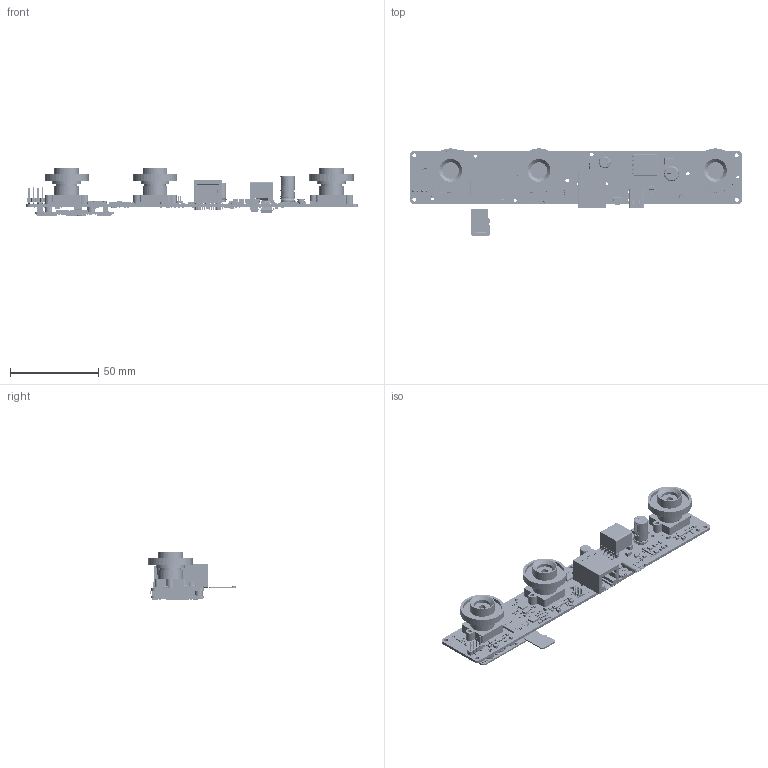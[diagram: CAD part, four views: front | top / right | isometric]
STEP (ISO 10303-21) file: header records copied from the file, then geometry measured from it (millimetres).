
FILE_DESCRIPTION(('Open CASCADE Model'),'2;1');
FILE_NAME('Open CASCADE Shape Model','2023-02-14T16:54:57',('Author'),( 'Open CASCADE'),'Open CASCADE STEP processor 7.5','Open CASCADE 7.5' ,'Unknown');
FILE_SCHEMA(('AUTOMOTIVE_DESIGN { 1 0 10303 214 1 1 1 1 }'));
Products named in the file (1): PCB
Bounding box: 188 x 49.4 x 27.16 mm (x, y, z)
Volume: 16294.2 mm3; surface area: 42480.9 mm2
Topology: 1393 solids, 4621 shells, 28848 faces, 83152 edges, 61857 vertices
Faces by surface type: plane 23099, cylinder 4551, bspline 744, torus 193, sphere 146, extrusion 53, cone 52, revolution 10
Full cylindrical faces by diameter (mm): 0.1 x2, 0.15 x1, 0.17 x1, 0.2 x2, 0.3 x1, 0.4 x21, 0.5 x2, 0.8 x4, 0.86 x2, 0.9 x14, 1.02 x4, 1.567 x2, 1.6 x4, 1.7 x2, 2 x3, 2.2 x6, 2.3 x4, 2.6 x2, 2.8 x2, 3 x2, 3.2 x2, 4.35 x2, 4.5 x2, 4.6 x1, 8 x2
Entity records: 989329 total; most frequent: CARTESIAN_POINT 202059, DIRECTION 146853, ORIENTED_EDGE 146201, EDGE_CURVE 81227, VECTOR 69097, LINE 69044, VERTEX_POINT 58867, AXIS2_PLACEMENT_3D 38873
